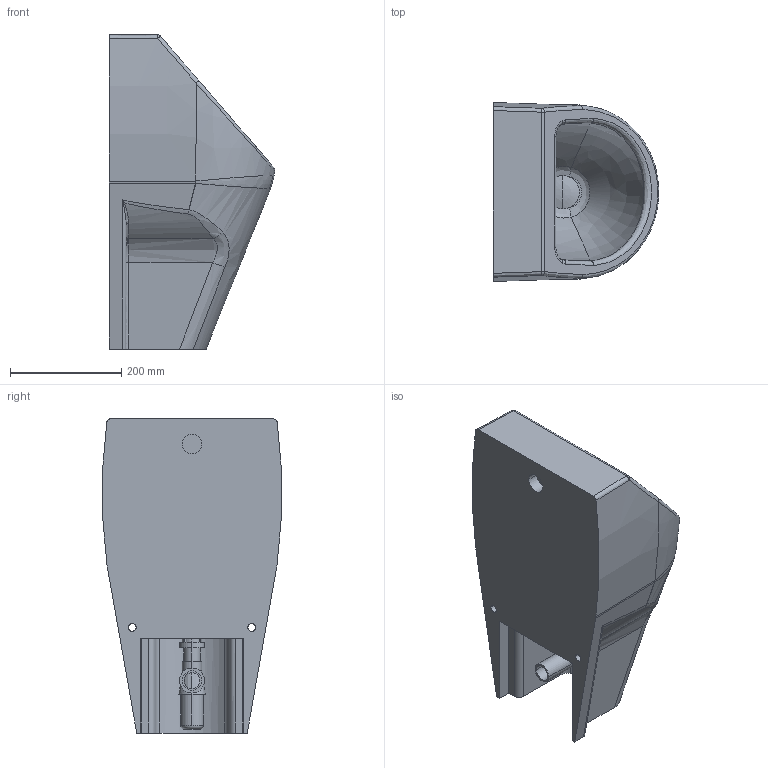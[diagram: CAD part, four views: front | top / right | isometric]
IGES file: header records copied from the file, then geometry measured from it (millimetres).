
Global section: file name: No Iges File Name specified; native system: Autodesk Inventor 2011; preprocessor: AutoDesk Inventor Iges Exporter R2011; author: Administrator; date: 20150521.141315; units: millimetre
Bounding box: 297.57 x 321.91 x 565 mm (x, y, z)
Volume: 16426586.5 mm3; surface area: 876242.4 mm2
Topology: 5 solids, 5 shells, 203 faces, 506 edges, 316 vertices
Faces by surface type: bspline 82, plane 46, cylinder 40, revolution 18, torus 11, sphere 4, cone 2
